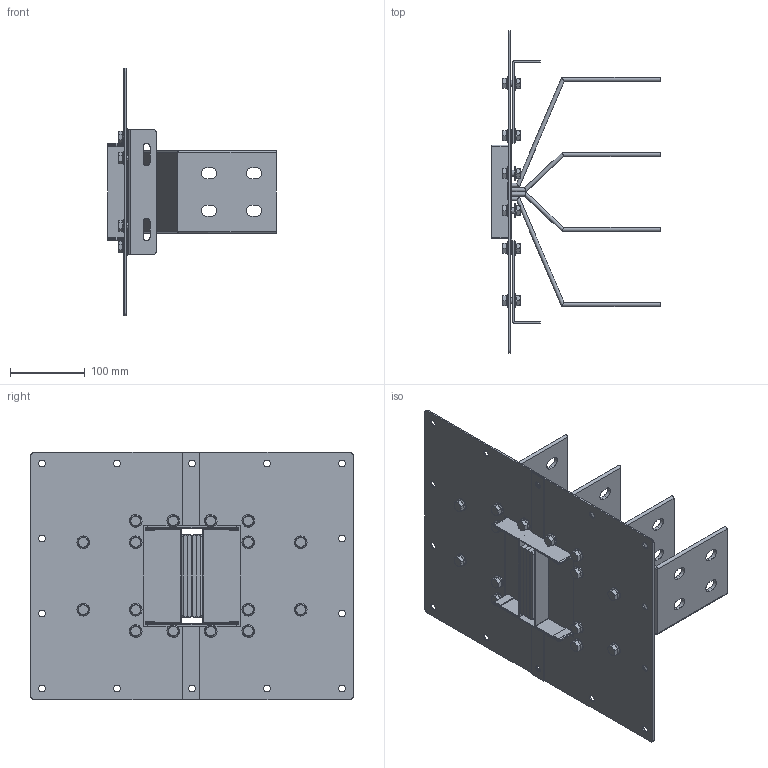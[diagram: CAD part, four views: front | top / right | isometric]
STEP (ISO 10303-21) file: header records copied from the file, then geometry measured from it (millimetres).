
FILE_DESCRIPTION(('CATIA V5 STEP','CAx-IF Rec.Pracs.--- Model Styling and Organization---1.5--- 2016-08-15','CAx-IF Rec.Pracs.---Supplemental Geometry---1.0---2011-11-01','CAx-IF Rec.Pracs.--- Composite Materials ---1.1---2010-07-15'),'2;1');
FILE_NAME('K:\COSCN 2011\32372311_RiduzioneSezioniBarre\03_Studio\__Modelli semplificati\XCP_UB semplificati per studi\XCP-HP_UB_4C_Pe_STD_Assieme\Al\XCP-HP_UB_4C_Pe_S_Assieme - 1000A Al\XCP-HP_UB_4C_Pe_S_Assieme - 1000A Al.stp','2025-05-12T09:23:14+00:00',('Utente Bticino'),('Bticino S.p.A.'),'CATIA Version 5-6 Release 2020 SP5','CATIA V5 STEP AP214 v2','none');
FILE_SCHEMA(('AUTOMOTIVE_DESIGN { 1 0 10303 214 1 1 1 1 }'));
Length unit declared in the file: millimetre
Products named in the file (7): XCP-HP_UB_4C_Pe_S_Assieme - 1000A Al; XCP-HP_UB_4C_Pe_S_PaccoBarre_1000A Al; XCP-HP_UB_4C_Pe_S_Lamiere_1000A Al; Viteria UB H130; Ass Vite+dado M8; Steel hex flanged SCREW M12x16; Steel hex flanged NUT M8
Assembly tree (21 placements, depth 4):
  XCP-HP_UB_4C_Pe_S_Assieme - 1000A Al
    XCP-HP_UB_4C_Pe_S_PaccoBarre_1000A Al
    XCP-HP_UB_4C_Pe_S_Lamiere_1000A Al
    Viteria UB H130
      Ass Vite+dado M8  x16
        Steel hex flanged SCREW M12x16
        Steel hex flanged NUT M8
Bounding box: 225 x 430 x 330 mm (x, y, z)
Volume: 1082815 mm3; surface area: 733471.8 mm2
Topology: 44 solids, 44 shells, 1148 faces, 2820 edges, 1792 vertices
Faces by surface type: plane 480, cylinder 380, cone 128, bspline 128, torus 32
Entity records: 14912 total; most frequent: CARTESIAN_POINT 3460, ORIENTED_EDGE 2460, DIRECTION 1928, EDGE_CURVE 1230, AXIS2_PLACEMENT_3D 818, VERTEX_POINT 802, VECTOR 728, LINE 728
